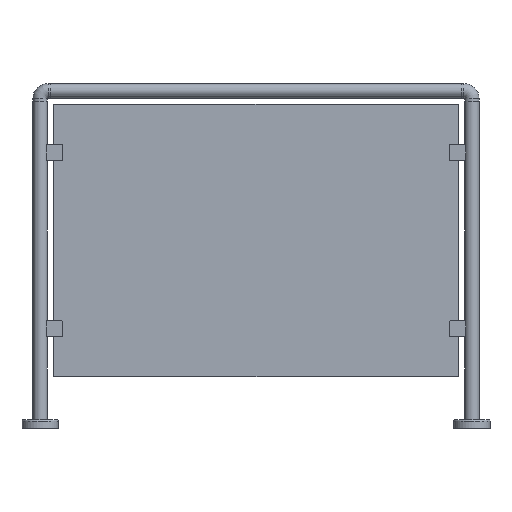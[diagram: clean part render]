
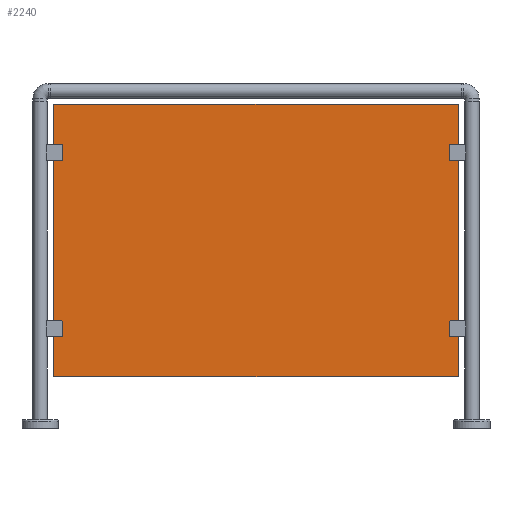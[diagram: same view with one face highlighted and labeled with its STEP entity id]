
A CAD part, front view. The second image highlights one B-rep face of the part: STEP entity #2240.
In plain terms, the highlighted planar face has unit normal (0, -1, 0) as drawn and (0, 1, 0) by its records, which use the part's own axes.
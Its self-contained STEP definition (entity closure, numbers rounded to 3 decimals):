
#128=PLANE('',#2467);
#239=LINE('',#3499,#361);
#243=LINE('',#3508,#365);
#246=LINE('',#3514,#368);
#249=LINE('',#3520,#371);
#361=VECTOR('',#2967,1000.);
#365=VECTOR('',#2973,1000.);
#368=VECTOR('',#2978,1000.);
#371=VECTOR('',#2983,1000.);
#801=ORIENTED_EDGE('',*,*,#1009,.F.);
#802=ORIENTED_EDGE('',*,*,#1019,.F.);
#803=ORIENTED_EDGE('',*,*,#1016,.F.);
#804=ORIENTED_EDGE('',*,*,#1013,.F.);
#1009=EDGE_CURVE('',#1169,#1170,#239,.T.);
#1013=EDGE_CURVE('',#1170,#1173,#243,.T.);
#1016=EDGE_CURVE('',#1173,#1175,#246,.T.);
#1019=EDGE_CURVE('',#1175,#1169,#249,.T.);
#1169=VERTEX_POINT('',#3500);
#1170=VERTEX_POINT('',#3501);
#1173=VERTEX_POINT('',#3509);
#1175=VERTEX_POINT('',#3515);
#1415=EDGE_LOOP('',(#801,#802,#803,#804));
#1565=FACE_BOUND('',#1415,.T.);
#2240=ADVANCED_FACE('',(#1565),#128,.F.);
#2467=AXIS2_PLACEMENT_3D('',#3523,#2987,#2988);
#2967=DIRECTION('',(0.,0.,-1.));
#2973=DIRECTION('',(1.,0.,0.));
#2978=DIRECTION('',(0.,0.,1.));
#2983=DIRECTION('',(-1.,0.,0.));
#2987=DIRECTION('',(0.,-1.,0.));
#2988=DIRECTION('',(0.,0.,-1.));
#3499=CARTESIAN_POINT('',(-394.8,5.,586.65));
#3500=CARTESIAN_POINT('',(-394.8,5.,586.65));
#3501=CARTESIAN_POINT('',(-394.8,5.,-586.65));
#3508=CARTESIAN_POINT('',(-394.8,5.,-586.65));
#3509=CARTESIAN_POINT('',(394.8,5.,-586.65));
#3514=CARTESIAN_POINT('',(394.8,5.,-586.65));
#3515=CARTESIAN_POINT('',(394.8,5.,586.65));
#3520=CARTESIAN_POINT('',(394.8,5.,586.65));
#3523=CARTESIAN_POINT('',(-394.8,5.,-586.65));
